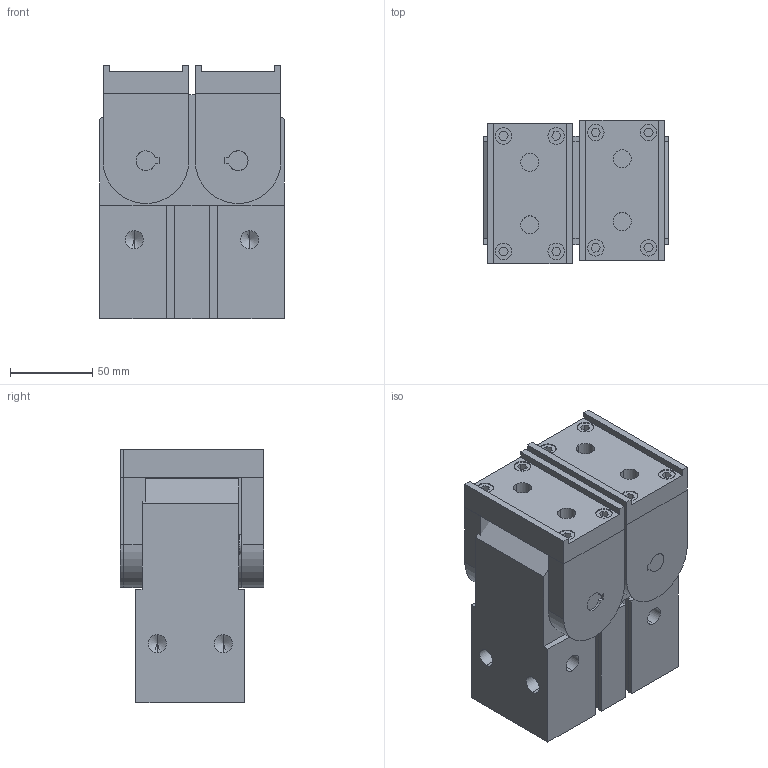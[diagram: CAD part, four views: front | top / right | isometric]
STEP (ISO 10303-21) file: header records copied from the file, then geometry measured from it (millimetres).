
FILE_DESCRIPTION (( 'STEP AP203' ), '1' );
FILE_NAME ('GHK 50 close.STEP', '2013-03-04T09:54:54', ( 'Conseil Régional Haute-Normandie' ), ( 'Conseil Régional Haute-Normandie' ), 'SwSTEP 2.0', 'SolidWorks 2010', '' );
FILE_SCHEMA (( 'CONFIG_CONTROL_DESIGN' ));
Length unit declared in the file: millimetre
Products named in the file (5): Pièce3 ghk_Default; GHK 50 close; Pièce1 ghk_Default; Pièce2 GHK_Default; Pièce2 GHK 50_Default
Assembly tree (9 placements, depth 2):
  GHK 50 close
    Pièce2 GHK 50_Default  x4
    Pièce3 ghk_Default  x2
    Pièce1 ghk_Default
    Pièce2 GHK_Default  x2
Bounding box: 112 x 87.08 x 154 mm (x, y, z)
Volume: 1176274.7 mm3; surface area: 144248.2 mm2
Topology: 9 solids, 9 shells, 283 faces, 704 edges, 450 vertices
Faces by surface type: plane 189, cylinder 74, cone 20
Entity records: 5947 total; most frequent: DIRECTION 920, CARTESIAN_POINT 917, ORIENTED_EDGE 876, EDGE_CURVE 438, LINE 342, VECTOR 342, AXIS2_PLACEMENT_3D 289, VERTEX_POINT 286
